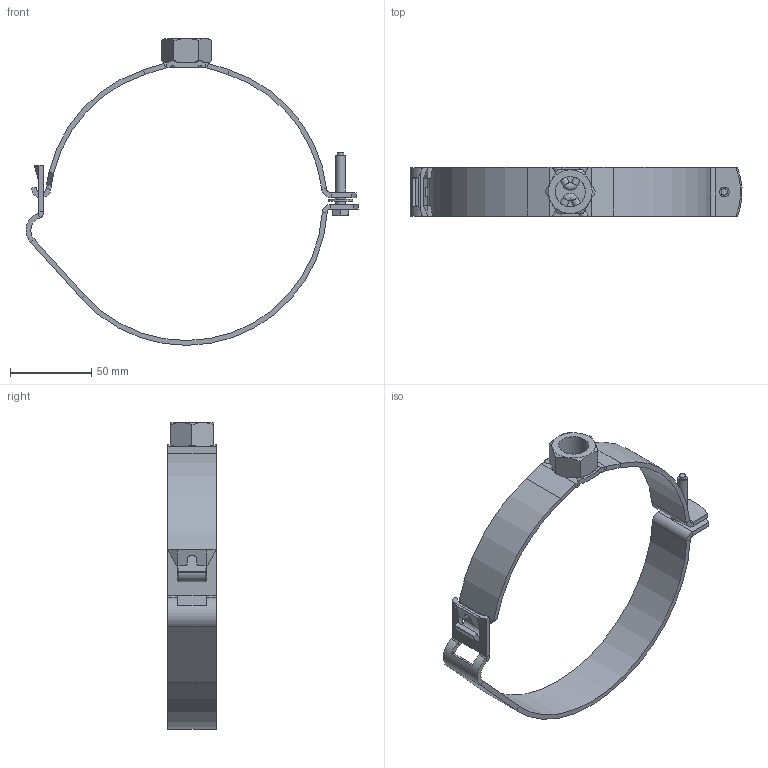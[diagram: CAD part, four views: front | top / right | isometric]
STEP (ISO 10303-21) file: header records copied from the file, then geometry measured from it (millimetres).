
FILE_DESCRIPTION(/* description */ (''),/* implementation_level */ '2;1');
FILE_NAME(/* name */ '369841.stp',/* time_stamp */ '2025-02-20T15:18:43+01:00',/* author */ ('JANAN'),/* organization */ (''),/* preprocessor_version */ 'ST-DEVELOPER v19.2',/* originating_system */ 'Autodesk Inventor 2023',/* authorisation */ '');
FILE_SCHEMA (('AUTOMOTIVE_DESIGN { 1 0 10303 214 3 1 1 }'));
Length unit declared in the file: millimetre
Products named in the file (1): tmpA435.tmp
Bounding box: 204.75 x 30 x 189.2 mm (x, y, z)
Volume: 59093.8 mm3; surface area: 43096.3 mm2
Topology: 4 solids, 4 shells, 226 faces, 576 edges, 357 vertices
Faces by surface type: plane 148, cylinder 48, cone 22, bspline 6, torus 2
Full cylindrical faces by diameter (mm): 4 x1, 6 x1, 15 x1, 18.631 x1
Entity records: 7439 total; most frequent: CARTESIAN_POINT 1766, ORIENTED_EDGE 1152, DIRECTION 1102, EDGE_CURVE 576, LINE 370, VECTOR 370, AXIS2_PLACEMENT_3D 366, VERTEX_POINT 357
